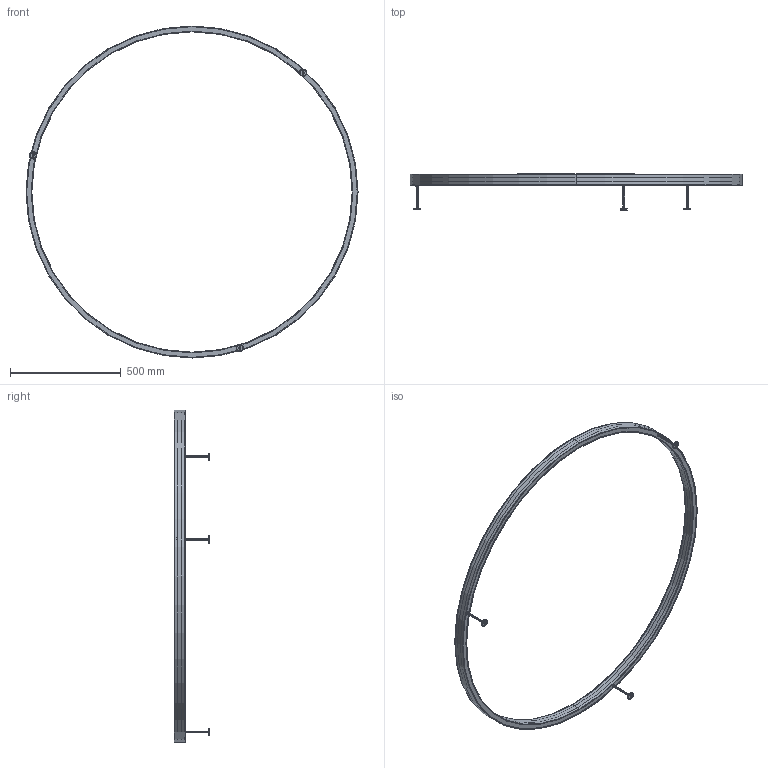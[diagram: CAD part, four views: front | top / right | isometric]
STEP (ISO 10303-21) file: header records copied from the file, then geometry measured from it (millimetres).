
FILE_DESCRIPTION (( 'STEP AP203' ), '1' );
FILE_NAME ('Zirkol C wall 1.5M.STEP', '2022-02-03T14:30:25', ( '' ), ( '' ), 'SwSTEP 2.0', 'SolidWorks 2016', '' );
FILE_SCHEMA (( 'CONFIG_CONTROL_DESIGN' ));
Length unit declared in the file: millimetre
Products named in the file (10): bullone_1; schermo luce_1; 0-CER-0043-0-00; zirkol 1.5M_1; schermo_1; Zirkol C wall 1.5M; Distanziale_1; 0-MOD-0008-1-00_1; 0-MOD-0007-0-00_1; tige special 16cm_1
Assembly tree (19 placements, depth 2):
  Zirkol C wall 1.5M
    0-MOD-0007-0-00_1  x3
    0-MOD-0008-1-00_1  x3
    Distanziale_1  x2
    bullone_1  x2
    schermo_1
    schermo luce_1
    zirkol 1.5M_1
    0-CER-0043-0-00  x3
    tige special 16cm_1  x3
Bounding box: 1500 x 160.26 x 1500 mm (x, y, z)
Volume: 2958296.2 mm3; surface area: 1581031.1 mm2
Topology: 19 solids, 19 shells, 490 faces, 1168 edges, 752 vertices
Faces by surface type: cylinder 268, plane 143, cone 46, bspline 27, torus 6
Entity records: 11108 total; most frequent: CARTESIAN_POINT 4547, DIRECTION 1138, ORIENTED_EDGE 1064, EDGE_CURVE 532, AXIS2_PLACEMENT_3D 458, VERTEX_POINT 344, EDGE_LOOP 282, ADVANCED_FACE 230
